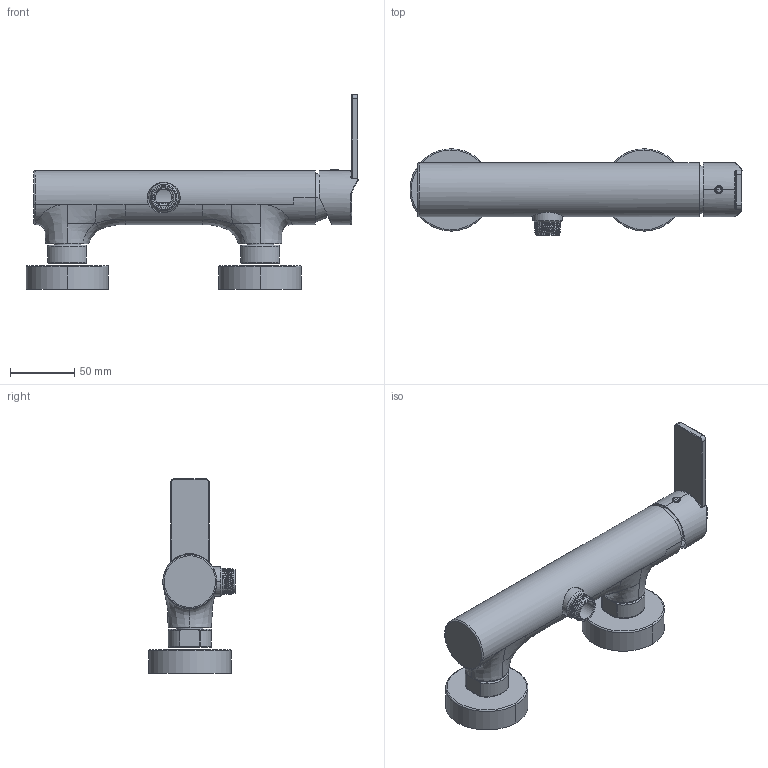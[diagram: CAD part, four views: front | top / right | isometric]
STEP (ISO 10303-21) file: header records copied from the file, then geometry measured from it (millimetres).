
FILE_DESCRIPTION((''),'2;1');
FILE_NAME('47006_SW0001','2024-02-21T09:32:11',('volponeff'),(''),'CREO PARAMETRIC BY PTC INC, 2022014','CREO PARAMETRIC BY PTC INC, 2022014','');
FILE_SCHEMA(('CONFIG_CONTROL_DESIGN'));
Products named in the file (1): 47006_SW0001
Bounding box: 258.1 x 67.3 x 151.3 mm (x, y, z)
Volume: 215416 mm3; surface area: 148117.2 mm2
Topology: 5 solids, 6 shells, 1430 faces, 3734 edges, 2342 vertices
Faces by surface type: cylinder 445, plane 379, bspline 295, cone 173, torus 124, sphere 14
Entity records: 80070 total; most frequent: CARTESIAN_POINT 46789, ORIENTED_EDGE 7456, DIRECTION 6368, EDGE_CURVE 3728, AXIS2_PLACEMENT_3D 2467, VERTEX_POINT 2342, EDGE_LOOP 1508, VECTOR 1434
